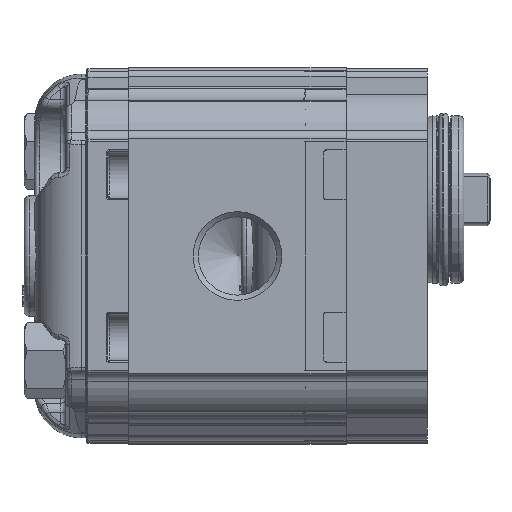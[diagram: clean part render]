
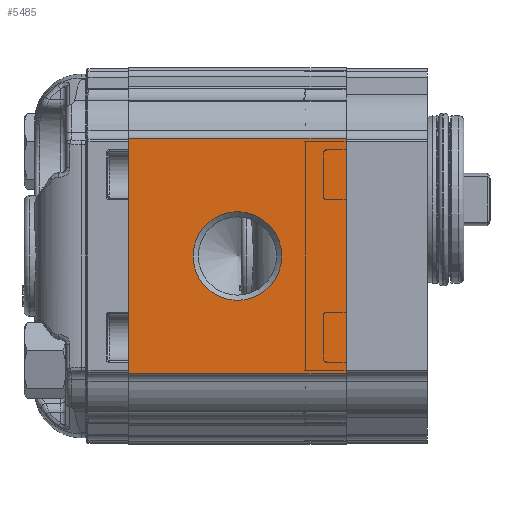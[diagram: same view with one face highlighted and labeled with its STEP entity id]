
A CAD part, left-side view. The second image highlights one B-rep face of the part: STEP entity #5485.
In plain terms, the highlighted planar face has unit normal (-1, 0, 0).
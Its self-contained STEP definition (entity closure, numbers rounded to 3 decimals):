
#5485 = ADVANCED_FACE( '', ( #11264, #11265 ), #11266, .T. );
#11264 = FACE_BOUND( '', #20756, .T. );
#11265 = FACE_OUTER_BOUND( '', #20757, .T. );
#11266 = PLANE( '', #20758 );
#20756 = EDGE_LOOP( '', ( #36960 ) );
#20757 = EDGE_LOOP( '', ( #36961, #36962, #36963, #36964 ) );
#20758 = AXIS2_PLACEMENT_3D( '', #36965, #36966, #36967 );
#36960 = ORIENTED_EDGE( '', *, *, #43634, .F. );
#36961 = ORIENTED_EDGE( '', *, *, #38977, .T. );
#36962 = ORIENTED_EDGE( '', *, *, #43230, .T. );
#36963 = ORIENTED_EDGE( '', *, *, #39646, .T. );
#36964 = ORIENTED_EDGE( '', *, *, #42844, .F. );
#36965 = CARTESIAN_POINT( '', ( -33., 124.842, 48.138 ) );
#36966 = DIRECTION( '', ( -1., 0., 0. ) );
#36967 = DIRECTION( '', ( 0., 0., 1. ) );
#38977 = EDGE_CURVE( '', #46558, #46559, #46560, .T. );
#39646 = EDGE_CURVE( '', #47628, #47629, #47630, .F. );
#42844 = EDGE_CURVE( '', #46558, #47629, #52011, .T. );
#43230 = EDGE_CURVE( '', #46559, #47628, #52442, .T. );
#43634 = EDGE_CURVE( '', #52836, #52836, #52837, .F. );
#46558 = VERTEX_POINT( '', #58899 );
#46559 = VERTEX_POINT( '', #58900 );
#46560 = LINE( '', #58901, #58902 );
#47628 = VERTEX_POINT( '', #61227 );
#47629 = VERTEX_POINT( '', #61228 );
#47630 = LINE( '', #61229, #61230 );
#52011 = LINE( '', #69999, #70000 );
#52442 = LINE( '', #70830, #70831 );
#52836 = VERTEX_POINT( '', #71523 );
#52837 = CIRCLE( '', #71524, 8.475 );
#58899 = CARTESIAN_POINT( '', ( -33., 41.5, -22.5 ) );
#58900 = CARTESIAN_POINT( '', ( -33., 0., -22.5 ) );
#58901 = CARTESIAN_POINT( '', ( -33., 41.5, -22.5 ) );
#58902 = VECTOR( '', #73585, 1000. );
#61227 = CARTESIAN_POINT( '', ( -33., 0., 22.5 ) );
#61228 = CARTESIAN_POINT( '', ( -33., 41.5, 22.5 ) );
#61229 = CARTESIAN_POINT( '', ( -33., 41.5, 22.5 ) );
#61230 = VECTOR( '', #74372, 1000. );
#69999 = CARTESIAN_POINT( '', ( -33., 41.5, -21.711 ) );
#70000 = VECTOR( '', #77762, 1000. );
#70830 = CARTESIAN_POINT( '', ( -33., 0., -21.711 ) );
#70831 = VECTOR( '', #78082, 1000. );
#71523 = CARTESIAN_POINT( '', ( -33., 20.75, -8.475 ) );
#71524 = AXIS2_PLACEMENT_3D( '', #78330, #78331, #78332 );
#73585 = DIRECTION( '', ( 0., -1., 0. ) );
#74372 = DIRECTION( '', ( 0., -1., 0. ) );
#77762 = DIRECTION( '', ( 0., 0., 1. ) );
#78082 = DIRECTION( '', ( 0., 0., 1. ) );
#78330 = CARTESIAN_POINT( '', ( -33., 20.75, 0. ) );
#78331 = DIRECTION( '', ( 1., 0., 0. ) );
#78332 = DIRECTION( '', ( 0., 0., -1. ) );
